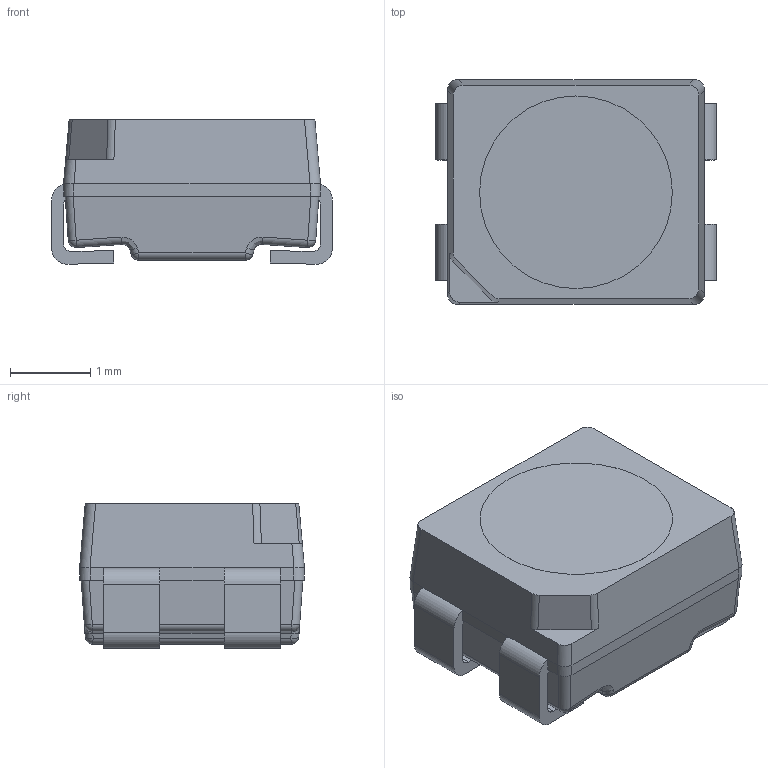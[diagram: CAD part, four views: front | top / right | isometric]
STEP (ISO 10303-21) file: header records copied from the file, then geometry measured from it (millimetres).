
FILE_DESCRIPTION (( 'STEP AP214' ), '1' );
FILE_NAME ('LWBB.STEP', '2025-03-23T08:06:31', ( '' ), ( '' ), 'SwSTEP 2.0', 'SolidWorks 2022', '' );
FILE_SCHEMA (( 'AUTOMOTIVE_DESIGN' ));
Length unit declared in the file: millimetre
Products named in the file (1): LWBB
Bounding box: 3.5 x 2.8 x 1.8 mm (x, y, z)
Volume: 14.5 mm3; surface area: 72.9 mm2
Topology: 3 solids, 3 shells, 393 faces, 1101 edges, 713 vertices
Faces by surface type: cylinder 188, plane 186, sphere 9, bspline 4, torus 4, cone 2
Entity records: 17376 total; most frequent: CARTESIAN_POINT 2596, DIRECTION 2203, ORIENTED_EDGE 2202, EDGE_CURVE 1101, AXIS2_PLACEMENT_3D 748, VERTEX_POINT 713, VECTOR 707, LINE 707
